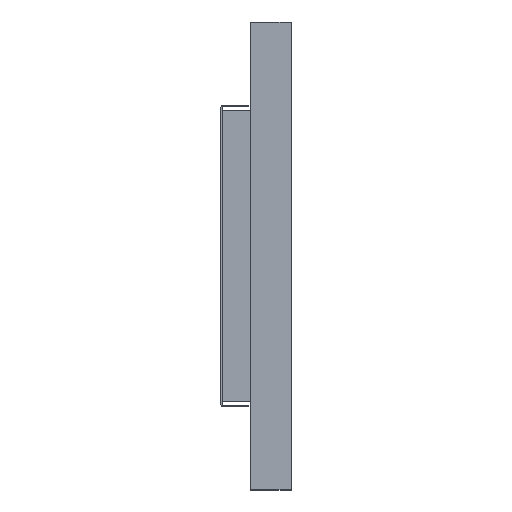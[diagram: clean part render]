
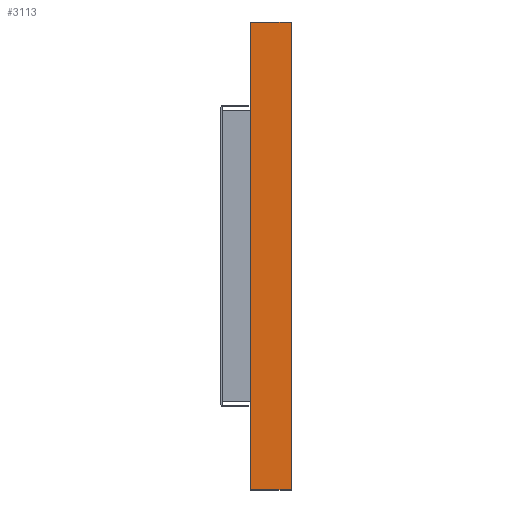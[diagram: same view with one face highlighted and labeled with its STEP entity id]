
A CAD part, left-side view. The second image highlights one B-rep face of the part: STEP entity #3113.
In plain terms, the highlighted planar face has unit normal (-1, 0, 0).
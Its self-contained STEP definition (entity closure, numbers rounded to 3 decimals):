
#9 = EDGE_LOOP ( 'NONE', ( #546, #1673, #3920, #2706 ) ) ;
#85 = AXIS2_PLACEMENT_3D ( 'NONE', #1733, #1398, #1115 ) ;
#91 = VECTOR ( 'NONE', #921, 1000. ) ;
#193 = DIRECTION ( 'NONE',  ( 0., -1., 0. ) ) ;
#209 = LINE ( 'NONE', #2617, #852 ) ;
#433 = CARTESIAN_POINT ( 'NONE',  ( -258.592, -7.233, -22. ) ) ;
#543 = VECTOR ( 'NONE', #1360, 1000. ) ;
#546 = ORIENTED_EDGE ( 'NONE', *, *, #1001, .T. ) ;
#835 = CARTESIAN_POINT ( 'NONE',  ( -258.592, -7.233, 36. ) ) ;
#852 = VECTOR ( 'NONE', #3540, 1000. ) ;
#921 = DIRECTION ( 'NONE',  ( 0., 0., 1. ) ) ;
#1001 = EDGE_CURVE ( 'NONE', #1268, #3502, #1220, .T. ) ;
#1115 = DIRECTION ( 'NONE',  ( 0., 0., -1. ) ) ;
#1155 = PLANE ( 'NONE',  #85 ) ;
#1220 = LINE ( 'NONE', #3664, #91 ) ;
#1229 = EDGE_CURVE ( 'NONE', #1835, #1268, #3178, .T. ) ;
#1268 = VERTEX_POINT ( 'NONE', #1438 ) ;
#1360 = DIRECTION ( 'NONE',  ( 0., -1., 0. ) ) ;
#1398 = DIRECTION ( 'NONE',  ( 1., 0., 0. ) ) ;
#1438 = CARTESIAN_POINT ( 'NONE',  ( -258.592, -12.233, -22. ) ) ;
#1673 = ORIENTED_EDGE ( 'NONE', *, *, #3273, .F. ) ;
#1731 = VERTEX_POINT ( 'NONE', #3335 ) ;
#1733 = CARTESIAN_POINT ( 'NONE',  ( -258.592, -7.233, -22. ) ) ;
#1807 = VECTOR ( 'NONE', #193, 1000. ) ;
#1835 = VERTEX_POINT ( 'NONE', #3638 ) ;
#2029 = FACE_OUTER_BOUND ( 'NONE', #9, .T. ) ;
#2617 = CARTESIAN_POINT ( 'NONE',  ( -258.592, -7.233, -22. ) ) ;
#2706 = ORIENTED_EDGE ( 'NONE', *, *, #1229, .T. ) ;
#2930 = LINE ( 'NONE', #835, #1807 ) ;
#3113 = ADVANCED_FACE ( 'NONE', ( #2029 ), #1155, .F. ) ;
#3178 = LINE ( 'NONE', #433, #543 ) ;
#3196 = EDGE_CURVE ( 'NONE', #1835, #1731, #209, .T. ) ;
#3273 = EDGE_CURVE ( 'NONE', #1731, #3502, #2930, .T. ) ;
#3335 = CARTESIAN_POINT ( 'NONE',  ( -258.592, -7.233, 36. ) ) ;
#3502 = VERTEX_POINT ( 'NONE', #3813 ) ;
#3540 = DIRECTION ( 'NONE',  ( 0., 0., 1. ) ) ;
#3638 = CARTESIAN_POINT ( 'NONE',  ( -258.592, -7.233, -22. ) ) ;
#3664 = CARTESIAN_POINT ( 'NONE',  ( -258.592, -12.233, -22. ) ) ;
#3813 = CARTESIAN_POINT ( 'NONE',  ( -258.592, -12.233, 36. ) ) ;
#3920 = ORIENTED_EDGE ( 'NONE', *, *, #3196, .F. ) ;
